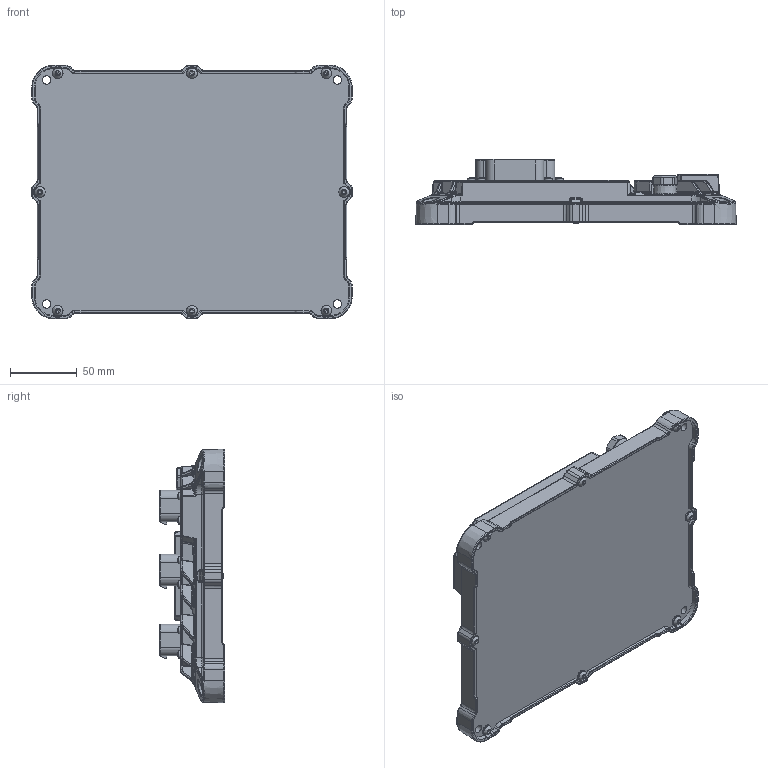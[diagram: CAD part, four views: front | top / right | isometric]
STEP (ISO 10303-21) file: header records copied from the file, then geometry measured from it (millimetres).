
FILE_DESCRIPTION (( 'STEP AP214' ), '1' );
FILE_NAME ('M640 - Block Model.STEP', '2016-09-08T16:29:03', ( '' ), ( '' ), 'SwSTEP 2.0', 'SolidWorks 2016', '' );
FILE_SCHEMA (( 'AUTOMOTIVE_DESIGN' ));
Length unit declared in the file: millimetre
Products named in the file (1): M640 - Block Model
Bounding box: 240.18 x 48.85 x 190.18 mm (x, y, z)
Volume: 1020970.4 mm3; surface area: 142743.5 mm2
Topology: 1 solids, 15 shells, 3319 faces, 7788 edges, 4493 vertices
Faces by surface type: bspline 1248, cylinder 1060, plane 893, cone 104, torus 14
Full cylindrical faces by diameter (mm): 3.3 x8, 4.91 x1, 5.6 x12, 6.2 x4, 7.5 x2, 7.6 x8, 8 x8, 8.2 x2, 10.917 x2
Entity records: 127485 total; most frequent: CARTESIAN_POINT 58671, ORIENTED_EDGE 15168, DIRECTION 11223, EDGE_CURVE 7584, VERTEX_POINT 4459, AXIS2_PLACEMENT_3D 4063, EDGE_LOOP 3511, FACE_OUTER_BOUND 3383
